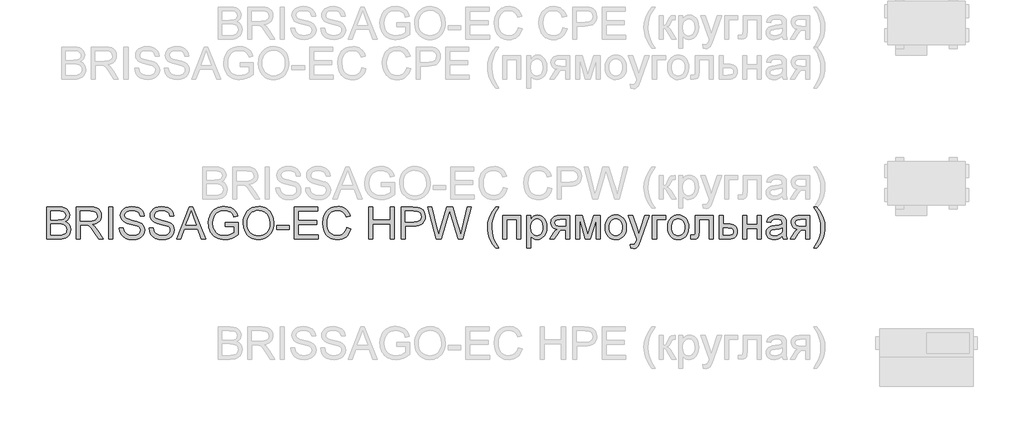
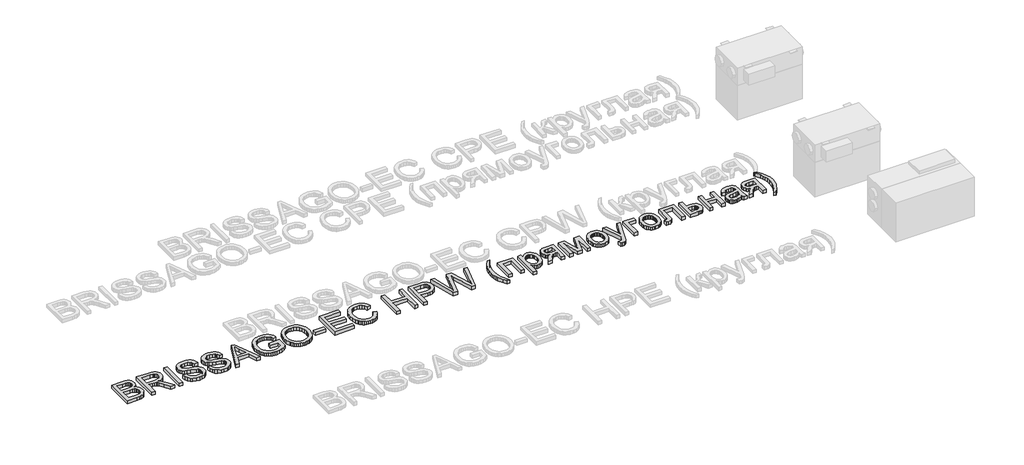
# One storey, part 9 of 28: 1 proxy.
"""IFC4 building model written with IfcOpenShell, lengths in millimetres."""

from ifc_helpers import new_model, si_unit, origin, origin_with_axes, place, context, project, spatial, polyline, outline, extrude, element, save

model = new_model("IFC4")

# Units and contexts
model_context = context("Model", 3, world=origin())
ifc_project = project(units=[si_unit("LENGTHUNIT", "METRE", prefix="MILLI")], contexts=[model_context])

# Site, building, storey
site = spatial("IfcSite", under=ifc_project)
building = spatial("IfcBuilding", under=site)
storey = spatial("IfcBuildingStorey", under=building, Name="Уровень 1", Elevation=0.0)

# Proxy
placement = place(None, origin())
element("IfcBuildingElementProxy", 1, Name="400 мм Arial", ObjectType="400 мм Arial", at=placement, inside=storey, context=model_context, shape_type="SweptSolid", body=[
    extrude(outline(polyline([(-31666.584598, -4848.7092589), (-31666.584598, -4446.8840183), (-31513.2513824, -4446.8840183), (-31471.079843, -4449.839337), (-31438.1544044, -4458.705293), (-31412.9176996, -4473.7026157), (-31393.8123613, -4495.0520342), (-31381.78262, -4520.1661117), (-31377.7727063, -4546.4574116), (-31381.1449579, -4570.6517842), (-31391.2617128, -4593.3991542), (-31408.1965473, -4613.3015701), (-31432.0230378, -4628.9610804), (-31403.5612342, -4643.823513), (-31382.5306468, -4666.435993), (-31369.5444123, -4695.3024669), (-31365.2156675, -4728.9268812), (-31368.1709862, -4756.9472265), (-31377.0369423, -4782.9319581), (-31390.2684314, -4805.0294033), (-31406.3203491, -4821.3878893), (-31425.9775104, -4833.2336896), (-31450.0247301, -4841.7930773), (-31479.2468233, -4846.9802135), (-31514.4286048, -4848.7092589), (-31666.584598, -4848.7092589)]), holes=[polyline([(-31616.3564429, -4610.1255223), (-31524.6311988, -4610.1255223), (-31471.0675803, -4605.8090402), (-31452.3178612, -4598.3655611), (-31438.8411175, -4587.2187367), (-31430.7109254, -4572.5402451), (-31428.0008614, -4554.5017646), (-31430.5269844, -4536.9905816), (-31438.1053535, -4521.7357415), (-31450.3926121, -4509.8286276), (-31467.0454038, -4502.3606231), (-31492.6009397, -4498.4242858), (-31531.5964312, -4497.1121733), (-31616.3564429, -4497.1121733), (-31616.3564429, -4610.1255223)]), polyline([(-31616.3564429, -4798.4811038), (-31513.3494842, -4798.4811038), (-31476.0707754, -4796.5190665), (-31444.5310257, -4785.5807085), (-31432.9550056, -4776.1506667), (-31423.6353284, -4763.2625341), (-31417.491699, -4747.4926593), (-31415.4438226, -4729.4173906), (-31417.8473183, -4708.4235914), (-31425.0578054, -4690.3728481), (-31437.6516324, -4676.2584423), (-31456.2051477, -4667.0736551), (-31482.4841849, -4662.0336718), (-31518.2545775, -4660.3536773), (-31616.3564429, -4660.3536773), (-31616.3564429, -4798.4811038)])]), origin_with_axes(), (0.0, 0.0, 1.0), 50.0),
    extrude(outline(polyline([(-31296.1519543, -4848.7092589), (-31296.1519543, -4446.8840183), (-31123.0021619, -4446.8840183), (-31076.4650895, -4449.5940823), (-31042.6076832, -4457.7242744), (-31017.8614877, -4472.7338598), (-30998.6580475, -4496.0821037), (-30986.3340007, -4525.0344168), (-30982.2259851, -4556.8562094), (-30983.9274393, -4577.4943893), (-30989.031802, -4596.440312), (-30997.5390731, -4613.6939776), (-31009.4492527, -4629.255386), (-31024.9156249, -4642.6278965), (-31044.0914739, -4653.3148685), (-31066.9767997, -4661.3163019), (-31093.5716023, -4666.6321967), (-31065.0239595, -4688.1165052), (-31024.3116853, -4739.8161883), (-30957.3081113, -4848.7092589), (-31015.6787212, -4848.7092589), (-31067.9670154, -4765.4207751), (-31105.7362336, -4710.2875268), (-31119.7770631, -4694.2110836), (-31132.2727882, -4684.2414815), (-31156.1605924, -4674.6765497), (-31185.2968464, -4672.9107161), (-31245.9237992, -4672.9107161), (-31245.9237992, -4848.7092589), (-31296.1519543, -4848.7092589)]), holes=[polyline([(-31245.9237992, -4622.682561), (-31133.4990615, -4622.682561), (-31101.2112851, -4620.9044647), (-31076.1585212, -4615.5701758), (-31057.2984376, -4606.324075), (-31043.5887019, -4592.810543), (-31035.2377806, -4576.4643197), (-31032.4541402, -4558.7201448), (-31037.7639036, -4534.2192039), (-31053.693194, -4514.4762035), (-31065.8547596, -4506.8794403), (-31081.1004026, -4501.4531809), (-31120.8439209, -4497.1121733), (-31245.9237992, -4497.1121733), (-31245.9237992, -4622.682561)])]), origin_with_axes(), (0.0, 0.0, 1.0), 50.0),
    extrude(outline(polyline([(-30888.0481943, -4848.7092589), (-30888.0481943, -4446.8840183), (-30837.8200392, -4446.8840183), (-30837.8200392, -4848.7092589), (-30888.0481943, -4848.7092589)])), origin_with_axes(), (0.0, 0.0, 1.0), 50.0),
    extrude(outline(polyline([(-30756.1992872, -4710.5818324), (-30705.9711322, -4710.5818324), (-30700.2076476, -4738.4550249), (-30689.7843244, -4760.8590384), (-30673.5239402, -4778.6400015), (-30650.2492726, -4792.6440428), (-30621.7997317, -4801.7307281), (-30590.0147273, -4804.7596232), (-30562.0311702, -4802.4664921), (-30537.5302293, -4795.5870988), (-30517.6768643, -4784.6977917), (-30503.6360348, -4770.3749194), (-30495.2851135, -4753.9305942), (-30492.5014731, -4736.6769286), (-30494.5861377, -4719.8647214), (-30500.8401317, -4705.3333826), (-30513.5443232, -4692.9357594), (-30534.9795808, -4682.5246989), (-30608.1145214, -4663.3457842), (-30656.1231218, -4650.6538554), (-30686.8412684, -4638.5750632), (-30711.8449814, -4621.6770169), (-30729.5646308, -4601.1982525), (-30740.1228441, -4577.5802284), (-30743.6422485, -4551.264403), (-30739.2889782, -4521.8461061), (-30726.2291674, -4494.414372), (-30704.8061725, -4471.1642299), (-30675.3633502, -4454.2907091), (-30640.0221532, -4444.0268014), (-30600.9040343, -4440.6054989), (-30558.5240285, -4444.186217), (-30521.4415234, -4454.9283712), (-30490.9808942, -4472.6112325), (-30468.4665161, -4497.0140715), (-30454.2172201, -4526.6163093), (-30448.5518374, -4559.8973672), (-30498.7799925, -4559.8973672), (-30508.0015678, -4529.9272473), (-30516.3647519, -4518.0691843), (-30527.2295334, -4508.295786), (-30557.2732297, -4495.199187), (-30598.941997, -4490.8336539), (-30641.591783, -4495.150136), (-30657.8950868, -4500.5457386), (-30670.8506644, -4508.0995823), (-30687.7732361, -4527.1558696), (-30693.4140934, -4549.792875), (-30689.4164424, -4569.0944171), (-30677.4234893, -4584.6190373), (-30649.0720502, -4598.5004512), (-30595.4103299, -4612.6761708), (-30540.0318269, -4626.1406518), (-30506.5300398, -4637.8883502), (-30477.8965579, -4656.1107716), (-30457.9205656, -4678.6006243), (-30446.1851299, -4705.1126534), (-30442.273318, -4735.4016043), (-30446.7737411, -4766.3650056), (-30460.2750103, -4795.4889969), (-30482.2253027, -4820.5540235), (-30512.0727952, -4839.3405307), (-30547.9658152, -4851.0759664), (-30588.05269, -4854.9877782), (-30637.2630382, -4850.769398), (-30677.7668459, -4838.1142574), (-30710.0300968, -4816.9733054), (-30734.518775, -4787.2974911), (-30750.2395989, -4751.1469537), (-30756.1992872, -4710.5818324)])), origin_with_axes(), (0.0, 0.0, 1.0), 50.0),
    extrude(outline(polyline([(-30385.7666436, -4710.5818324), (-30335.5384885, -4710.5818324), (-30329.7750039, -4738.4550249), (-30319.3516807, -4760.8590384), (-30303.0912965, -4778.6400015), (-30279.816629, -4792.6440428), (-30251.367088, -4801.7307281), (-30219.5820836, -4804.7596232), (-30191.5985265, -4802.4664921), (-30167.0975856, -4795.5870988), (-30147.2442206, -4784.6977917), (-30133.2033911, -4770.3749194), (-30124.8524699, -4753.9305942), (-30122.0688294, -4736.6769286), (-30124.1534941, -4719.8647214), (-30130.407488, -4705.3333826), (-30143.1116795, -4692.9357594), (-30164.5469371, -4682.5246989), (-30237.6818778, -4663.3457842), (-30285.6904781, -4650.6538554), (-30316.4086247, -4638.5750632), (-30341.4123377, -4621.6770169), (-30359.1319871, -4601.1982525), (-30369.6902004, -4577.5802284), (-30373.2096048, -4551.264403), (-30368.8563345, -4521.8461061), (-30355.7965237, -4494.414372), (-30334.3735288, -4471.1642299), (-30304.9307065, -4454.2907091), (-30269.5895095, -4444.0268014), (-30230.4713907, -4440.6054989), (-30188.0913848, -4444.186217), (-30151.0088797, -4454.9283712), (-30120.5482505, -4472.6112325), (-30098.0338724, -4497.0140715), (-30083.7845765, -4526.6163093), (-30078.1191937, -4559.8973672), (-30128.3473488, -4559.8973672), (-30137.5689242, -4529.9272473), (-30145.9321082, -4518.0691843), (-30156.7968898, -4508.295786), (-30186.840586, -4495.199187), (-30228.5093534, -4490.8336539), (-30271.1591393, -4495.150136), (-30287.4624431, -4500.5457386), (-30300.4180207, -4508.0995823), (-30317.3405925, -4527.1558696), (-30322.9814497, -4549.792875), (-30318.9837987, -4569.0944171), (-30306.9908457, -4584.6190373), (-30278.6394066, -4598.5004512), (-30224.9776862, -4612.6761708), (-30169.5991832, -4626.1406518), (-30136.0973962, -4637.8883502), (-30107.4639142, -4656.1107716), (-30087.4879219, -4678.6006243), (-30075.7524862, -4705.1126534), (-30071.8406743, -4735.4016043), (-30076.3410974, -4766.3650056), (-30089.8423666, -4795.4889969), (-30111.792659, -4820.5540235), (-30141.6401516, -4839.3405307), (-30177.5331716, -4851.0759664), (-30217.6200463, -4854.9877782), (-30266.8303945, -4850.769398), (-30307.3342022, -4838.1142574), (-30339.5974532, -4816.9733054), (-30364.0861313, -4787.2974911), (-30379.8069552, -4751.1469537), (-30385.7666436, -4710.5818324)])), origin_with_axes(), (0.0, 0.0, 1.0), 50.0),
    extrude(outline(polyline([(-30043.2930315, -4848.7092589), (-29882.8964816, -4446.8840183), (-29840.1240683, -4446.8840183), (-29679.7275184, -4848.7092589), (-29732.8006276, -4848.7092589), (-29778.8104025, -4723.1388712), (-29944.3082494, -4723.1388712), (-29990.2199224, -4848.7092589), (-30043.2930315, -4848.7092589)]), holes=[polyline([(-29925.8650987, -4672.9107161), (-29797.1554513, -4672.9107161), (-29833.3550396, -4574.1221377), (-29861.510275, -4497.1121733), (-29886.5262506, -4565.4891735), (-29925.8650987, -4672.9107161)])]), origin_with_axes(), (0.0, 0.0, 1.0), 50.0),
    extrude(outline(polyline([(-29437.7102165, -4691.7462742), (-29437.7102165, -4641.5181192), (-29274.4687125, -4641.5181192), (-29274.4687125, -4791.7120751), (-29314.1386543, -4819.3032247), (-29355.0593949, -4839.0952761), (-29397.1328325, -4851.0146527), (-29440.260865, -4854.9877782), (-29469.1120105, -4853.4089513), (-29496.608124, -4848.6724707), (-29522.7492054, -4840.7783362), (-29547.5352548, -4829.7265479), (-29570.1661289, -4815.6826527), (-29589.8416843, -4798.8121976), (-29606.5619209, -4779.1151824), (-29620.3268389, -4756.5916073), (-29631.0781902, -4731.9619077), (-29638.7577269, -4705.9465193), (-29643.3654489, -4678.545442), (-29644.9013562, -4649.7586759), (-29638.7822524, -4593.1661623), (-29631.1333725, -4566.3506305), (-29620.4249408, -4540.5222488), (-29606.8470295, -4516.8153199), (-29590.589711, -4496.3641466), (-29571.6529853, -4479.168729), (-29550.0368524, -4465.2290671), (-29526.2103618, -4454.456256), (-29500.6425632, -4446.7613909), (-29473.3334564, -4442.1444719), (-29444.2830415, -4440.6054989), (-29402.9085798, -4444.1739542), (-29365.7034473, -4454.8793203), (-29334.3721641, -4471.9490449), (-29310.6192499, -4494.6105758), (-29293.0467533, -4523.9552962), (-29280.2567226, -4561.0745896), (-29326.5608031, -4574.1221377), (-29336.8982871, -4547.6468967), (-29349.4675886, -4527.6709044), (-29366.0958548, -4512.6122681), (-29388.6102329, -4500.8890952), (-29415.4533558, -4493.3475143), (-29445.0678564, -4490.8336539), (-29479.7346031, -4493.543718), (-29509.3736292, -4501.6739101), (-29533.8745701, -4514.2064234), (-29553.1270611, -4530.123451), (-29567.9036546, -4548.6033899), (-29578.9769027, -4568.8246369), (-29590.7491265, -4606.7410079), (-29594.6732011, -4647.6985367), (-29589.9520489, -4695.7316625), (-29575.7885921, -4735.2544515), (-29552.6120264, -4765.9848609), (-29520.8515474, -4787.6408477), (-29483.6832032, -4800.4799293), (-29444.2830415, -4804.7596232), (-29409.4936675, -4801.5345243), (-29375.5626848, -4791.8592279), (-29346.095337, -4778.5296369), (-29324.6968676, -4764.3416546), (-29324.6968676, -4691.7462742), (-29437.7102165, -4691.7462742)])), origin_with_axes(), (0.0, 0.0, 1.0), 50.0),
    extrude(outline(polyline([(-29211.6835187, -4653.0941393), (-29208.3357925, -4605.9623243), (-29198.2926141, -4564.2383747), (-29181.5539833, -4527.9222904), (-29158.1199002, -4497.0140715), (-29129.3944477, -4472.335321), (-29096.7817089, -4454.707642), (-29060.2816836, -4444.1310347), (-29019.8943719, -4440.6054989), (-28992.8611766, -4442.2609679), (-28967.1891447, -4447.2273748), (-28942.8782762, -4455.5047197), (-28919.928571, -4467.0930025), (-28898.9838228, -4481.6427354), (-28880.6878249, -4498.8044305), (-28865.0405774, -4518.5780878), (-28852.0420802, -4540.9637072), (-28841.8272235, -4565.4523853), (-28834.5308972, -4591.5352188), (-28828.6938362, -4648.4833516), (-28830.2297436, -4678.1407718), (-28834.8374656, -4706.1917739), (-28842.5170022, -4732.636358), (-28853.2683535, -4757.4745241), (-28866.8370678, -4780.0502158), (-28882.9686933, -4799.7073771), (-28901.66323, -4816.4460079), (-28922.9206779, -4830.2661082), (-28945.9041056, -4841.0818388), (-28969.7765814, -4848.8073607), (-28994.5381054, -4853.4426739), (-29020.1886775, -4854.9877782), (-29047.693988, -4853.2801926), (-29073.703245, -4848.1574359), (-29098.2164486, -4839.6195079), (-29121.2335988, -4827.6664087), (-29142.1538216, -4812.7610566), (-29160.3762431, -4795.3663696), (-29175.9008633, -4775.4823477), (-29188.7276822, -4753.108991), (-29205.9445596, -4704.487254), (-29211.6835187, -4653.0941393)]), holes=[polyline([(-29161.4553636, -4653.5846486), (-29158.944569, -4686.8841005), (-29151.4121851, -4716.4434189), (-29138.8582121, -4742.2626036), (-29121.2826497, -4764.3416546), (-29099.9179029, -4782.0245159), (-29075.9963761, -4794.655131), (-29049.5180695, -4802.2335001), (-29020.4829831, -4804.7596232), (-28990.9512559, -4802.2089747), (-28964.1602496, -4794.5570292), (-28940.1099642, -4781.8037867), (-28918.8003996, -4763.9492472), (-28901.353596, -4741.4042122), (-28888.8915934, -4714.5794834), (-28881.4143918, -4683.4750607), (-28878.9219913, -4648.0909442), (-28883.1894225, -4603.6262737), (-28895.9917159, -4565.1948679), (-28916.9977778, -4533.7654828), (-28945.8765144, -4510.3068742), (-28980.7149394, -4495.701959), (-29019.6000663, -4490.8336539), (-29047.6265429, -4493.1789017), (-29073.6296686, -4500.2146448), (-29097.6094434, -4511.9408834), (-29119.5658671, -4528.3576175), (-29137.8925218, -4550.2557932), (-29150.9829895, -4578.426357), (-29158.8372701, -4612.8693088), (-29161.4553636, -4653.5846486)])]), origin_with_axes(), (0.0, 0.0, 1.0), 50.0),
    extrude(outline(polyline([(-28791.0227199, -4729.4173906), (-28791.0227199, -4679.1892355), (-28634.0597353, -4679.1892355), (-28634.0597353, -4729.4173906), (-28791.0227199, -4729.4173906)])), origin_with_axes(), (0.0, 0.0, 1.0), 50.0),
    extrude(outline(polyline([(-28571.2745415, -4848.7092589), (-28571.2745415, -4446.8840183), (-28282.4626498, -4446.8840183), (-28282.4626498, -4497.1121733), (-28521.0463864, -4497.1121733), (-28521.0463864, -4616.4040416), (-28295.0196886, -4616.4040416), (-28295.0196886, -4666.6321967), (-28521.0463864, -4666.6321967), (-28521.0463864, -4798.4811038), (-28276.1841304, -4798.4811038), (-28276.1841304, -4848.7092589), (-28571.2745415, -4848.7092589)])), origin_with_axes(), (0.0, 0.0, 1.0), 50.0),
    extrude(outline(polyline([(-27918.3085255, -4705.8729429), (-27868.0803704, -4718.8223891), (-27878.0193157, -4750.0586362), (-27891.2569361, -4777.3524145), (-27907.7932318, -4800.7037242), (-27927.6282027, -4820.1125651), (-27950.3142591, -4835.3704708), (-27975.4038112, -4846.268975), (-28002.8968589, -4852.8080774), (-28032.7934024, -4854.9877782), (-28063.4226442, -4853.3384406), (-28091.0536477, -4848.3904278), (-28115.686413, -4840.1437397), (-28137.32094, -4828.5983765), (-28156.2546, -4813.9260162), (-28172.7847643, -4796.2983373), (-28186.9114329, -4775.7153396), (-28198.6346058, -4752.1770233), (-28214.4167434, -4700.305662), (-28219.677456, -4644.7554807), (-28213.7300304, -4586.1641416), (-28206.2957484, -4559.8667103), (-28195.8877536, -4535.5681046), (-28182.739038, -4513.6699288), (-28167.0825934, -4494.5737876), (-28148.9184199, -4478.2796809), (-28128.2465174, -4464.7876087), (-28105.7689275, -4454.2079356), (-28082.1876916, -4446.6510263), (-28031.7142819, -4440.6054989), (-28002.9857638, -4442.5614048), (-27976.6423472, -4448.4291226), (-27952.6840323, -4458.2086523), (-27931.1108189, -4471.8999939), (-27912.2783265, -4489.1413968), (-27896.5421741, -4509.5711102), (-27883.9023619, -4533.1891343), (-27874.3588898, -4559.995469), (-27924.5870449, -4571.9638966), (-27942.000126, -4535.3351126), (-27965.7898284, -4510.2087724), (-27996.2504576, -4495.6774336), (-28033.6763192, -4490.8336539), (-28076.8166145, -4496.2047311), (-28095.4988885, -4502.9185775), (-28112.2559134, -4512.3179625), (-28139.1480872, -4537.4810909), (-28156.6470075, -4570.0018593), (-28166.2487275, -4606.7655334), (-28169.4493009, -4644.6573789), (-28165.6601163, -4691.0595612), (-28154.2925627, -4731.1832241), (-28134.9174443, -4763.495526), (-28107.1055654, -4786.4636253), (-28073.7631939, -4800.1856237), (-28037.7965975, -4804.7596232), (-28015.9597355, -4803.2022561), (-27995.8703128, -4798.5301547), (-27977.5283297, -4790.7433192), (-27960.933786, -4779.8417494), (-27946.4790893, -4765.8744963), (-27934.556647, -4748.8906108), (-27925.166459, -4728.890093), (-27918.3085255, -4705.8729429)])), origin_with_axes(), (0.0, 0.0, 1.0), 50.0),
    extrude(outline(polyline([(-27642.0536726, -4848.7092589), (-27642.0536726, -4446.8840183), (-27591.8255175, -4446.8840183), (-27591.8255175, -4610.1255223), (-27378.3558585, -4610.1255223), (-27378.3558585, -4446.8840183), (-27328.1277034, -4446.8840183), (-27328.1277034, -4848.7092589), (-27378.3558585, -4848.7092589), (-27378.3558585, -4660.3536773), (-27591.8255175, -4660.3536773), (-27591.8255175, -4848.7092589), (-27642.0536726, -4848.7092589)])), origin_with_axes(), (0.0, 0.0, 1.0), 50.0),
    extrude(outline(polyline([(-27240.228432, -4848.7092589), (-27240.228432, -4446.8840183), (-27091.3098004, -4446.8840183), (-27031.2714587, -4450.709991), (-27004.5019122, -4457.8591644), (-26982.4657807, -4469.4964982), (-26964.7216058, -4486.1492899), (-26950.8279291, -4508.3448369), (-26941.8516085, -4534.5257722), (-26938.8595016, -4563.1347287), (-26940.8797868, -4587.8012165), (-26946.9406427, -4610.4934042), (-26957.0420692, -4631.2112919), (-26971.1840662, -4649.9548796), (-26990.5990385, -4665.4917625), (-27016.5193907, -4676.589536), (-27048.9451229, -4683.2482002), (-27087.8762351, -4685.4677549), (-27190.0002769, -4685.4677549), (-27190.0002769, -4848.7092589), (-27240.228432, -4848.7092589)]), holes=[polyline([(-27190.0002769, -4635.2395998), (-27084.9331791, -4635.2395998), (-27040.3949322, -4630.6288121), (-27023.7911915, -4624.8653275), (-27010.9643726, -4616.7964491), (-27001.3933094, -4606.6367747), (-26994.5568356, -4594.6009021), (-26989.0876566, -4564.9005623), (-26992.3127555, -4542.3371333), (-27001.9880519, -4523.3053714), (-27016.9117982, -4508.982499), (-27035.8822464, -4500.5457386), (-27086.1104015, -4497.1121733), (-27190.0002769, -4497.1121733), (-27190.0002769, -4635.2395998)])]), origin_with_axes(), (0.0, 0.0, 1.0), 50.0),
    extrude(outline(polyline([(-26797.887121, -4848.7092589), (-26907.4669046, -4446.8840183), (-26855.6691197, -4446.8840183), (-26792.0991109, -4710.9742399), (-26772.4787379, -4792.49689), (-26751.4849387, -4720.3920189), (-26671.826224, -4446.8840183), (-26597.1707044, -4446.8840183), (-26539.2906039, -4645.1478882), (-26514.4953574, -4718.7242872), (-26496.223885, -4792.49689), (-26477.1921231, -4713.3286846), (-26413.0335031, -4446.8840183), (-26361.2357182, -4446.8840183), (-26470.9136037, -4848.7092589), (-26524.5753241, -4848.7092589), (-26620.9113559, -4538.7073643), (-26634.3513114, -4495.4444416), (-26649.4589987, -4547.5365321), (-26737.2601682, -4848.7092589), (-26797.887121, -4848.7092589)])), origin_with_axes(), (0.0, 0.0, 1.0), 50.0),
    extrude(outline(polyline([(-26059.8667877, -4961.7226078), (-26098.7887028, -4907.1043942), (-26131.1868439, -4843.9022675), (-26143.933955, -4809.8486574), (-26153.0390344, -4775.1819108), (-26158.502082, -4739.9020274), (-26160.3230979, -4704.0090074), (-26154.8784444, -4641.5916956), (-26138.5444838, -4581.872185), (-26106.1218173, -4514.2309488), (-26059.8667877, -4446.8840183), (-26022.1956714, -4446.8840183), (-26069.186465, -4526.4446311), (-26085.2261199, -4564.2138493), (-26097.4398022, -4603.5526973), (-26106.9311577, -4653.8053778), (-26110.0949428, -4704.303313), (-26104.6012384, -4768.6949249), (-26088.120125, -4833.0620113), (-26060.6516027, -4897.4045723), (-26022.1956714, -4961.7226078), (-26059.8667877, -4961.7226078)])), origin_with_axes(), (0.0, 0.0, 1.0), 50.0),
    extrude(outline(polyline([(-25971.9675164, -4553.6188478), (-25745.9408185, -4553.6188478), (-25745.9408185, -4848.7092589), (-25796.1689736, -4848.7092589), (-25796.1689736, -4603.8470029), (-25921.7393613, -4603.8470029), (-25921.7393613, -4848.7092589), (-25971.9675164, -4848.7092589), (-25971.9675164, -4553.6188478)])), origin_with_axes(), (0.0, 0.0, 1.0), 50.0),
    extrude(outline(polyline([(-25670.5985859, -4961.7226078), (-25670.5985859, -4553.6188478), (-25620.3704308, -4553.6188478), (-25620.3704308, -4602.8659842), (-25603.9874193, -4578.5735098), (-25585.6423705, -4561.2217424), (-25564.2561638, -4550.8106819), (-25538.7496788, -4547.3403284), (-25504.781908, -4552.1963707), (-25475.0815682, -4566.7644978), (-25450.8994584, -4590.1617926), (-25433.4863773, -4621.5053386), (-25422.9649522, -4658.5142674), (-25419.4578105, -4698.9077104), (-25423.4186734, -4741.8640647), (-25435.3012618, -4780.2832078), (-25454.7254311, -4812.2153649), (-25481.3110367, -4835.7107617), (-25512.2744379, -4850.1685241), (-25544.8319945, -4854.9877782), (-25567.9227211, -4851.7626794), (-25588.5363755, -4842.0873829), (-25606.1824486, -4827.4824677), (-25620.3704308, -4809.4685127), (-25620.3704308, -4961.7226078), (-25670.5985859, -4961.7226078)]), holes=[polyline([(-25620.3704308, -4703.5184981), (-25614.93804, -4748.5472543), (-25608.1475516, -4765.9848609), (-25598.6408677, -4780.0379531), (-25574.5936479, -4798.5792056), (-25560.8317956, -4803.2145188), (-25545.911115, -4804.7596232), (-25530.7758366, -4803.1593365), (-25516.7625983, -4798.3584765), (-25503.8714, -4790.3570431), (-25492.1022419, -4779.1550363), (-25482.295121, -4764.5930407), (-25475.2900347, -4746.5116406), (-25471.0869829, -4724.9108361), (-25469.6859656, -4699.7906272), (-25475.1551446, -4655.0071257), (-25481.9916184, -4637.434629), (-25491.5626816, -4623.0749685), (-25515.5731132, -4603.9451047), (-25529.1786156, -4599.1626388), (-25543.8509758, -4597.5684835), (-25558.4773508, -4599.2638063), (-25572.2392031, -4604.3497749), (-25597.1693397, -4624.6936493), (-25607.3198171, -4639.7921395), (-25614.5701581, -4657.9624444), (-25618.9203626, -4679.2045639), (-25620.3704308, -4703.5184981)])]), origin_with_axes(), (0.0, 0.0, 1.0), 50.0),
    extrude(outline(polyline([(-25136.9244382, -4553.6188478), (-25136.9244382, -4848.7092589), (-25187.1525933, -4848.7092589), (-25187.1525933, -4735.6959099), (-25214.5230138, -4735.6959099), (-25236.3506788, -4737.2900653), (-25251.8017226, -4742.0725312), (-25266.6886807, -4755.9784706), (-25286.8240885, -4784.9430464), (-25326.8496496, -4848.7092589), (-25384.9259539, -4848.7092589), (-25334.5015951, -4768.0695255), (-25312.2324717, -4739.1294752), (-25291.7291818, -4726.2781309), (-25326.0648347, -4715.7567058), (-25339.4066884, -4706.945932), (-25350.1978936, -4695.7684507), (-25364.471715, -4669.1828452), (-25369.2296555, -4638.8693688), (-25367.6048433, -4620.7818374), (-25362.7304069, -4604.484665), (-25354.6063462, -4589.9778516), (-25343.2326611, -4577.2613973), (-25328.7810301, -4566.9177819), (-25311.4231313, -4559.5294852), (-25291.1589647, -4555.0965071), (-25267.9885304, -4553.6188478), (-25136.9244382, -4553.6188478)]), holes=[polyline([(-25187.1525933, -4603.8470029), (-25253.3713525, -4603.8470029), (-25287.5721153, -4606.7532706), (-25306.9840219, -4615.4720739), (-25315.9971308, -4628.0904264), (-25319.0015004, -4642.6953416), (-25314.5746537, -4661.837468), (-25301.2941137, -4675.1180081), (-25276.7563846, -4682.8803182), (-25238.5579708, -4685.4677549), (-25187.1525933, -4685.4677549), (-25187.1525933, -4603.8470029)])]), origin_with_axes(), (0.0, 0.0, 1.0), 50.0),
    extrude(outline(polyline([(-25061.5822056, -4553.6188478), (-24975.1544622, -4553.6188478), (-24908.5432956, -4789.8481396), (-24836.7327302, -4553.6188478), (-24753.9347558, -4553.6188478), (-24753.9347558, -4848.7092589), (-24804.1629109, -4848.7092589), (-24804.1629109, -4611.1065409), (-24876.3658838, -4848.7092589), (-24942.2903373, -4848.7092589), (-25011.3540506, -4599.7267245), (-25011.3540506, -4848.7092589), (-25061.5822056, -4848.7092589), (-25061.5822056, -4553.6188478)])), origin_with_axes(), (0.0, 0.0, 1.0), 50.0),
    extrude(outline(polyline([(-24691.149562, -4701.1640533), (-24688.4333666, -4662.9472454), (-24680.2847804, -4630.0156755), (-24666.7038034, -4602.3693435), (-24647.6904356, -4580.0082496), (-24628.5483091, -4565.7160341), (-24607.4196199, -4555.5073087), (-24584.3043678, -4549.3820735), (-24559.202553, -4547.3403284), (-24531.4918417, -4549.8265976), (-24506.4360122, -4557.285405), (-24484.0350644, -4569.7167508), (-24464.2889983, -4587.1206348), (-24448.1727012, -4608.908446), (-24436.6610604, -4634.4915731), (-24429.754076, -4663.8700161), (-24427.4517478, -4697.043775), (-24431.5229752, -4747.7869648), (-24443.7366575, -4786.4145743), (-24463.7371753, -4815.3423619), (-24491.1689094, -4836.9860859), (-24523.7509914, -4850.4873552), (-24559.202553, -4854.9877782), (-24587.3179345, -4852.5107061), (-24612.606756, -4845.0794898), (-24635.0690175, -4832.6941293), (-24654.704719, -4815.3546246), (-24670.6493378, -4793.3552813), (-24682.0383512, -4766.990405), (-24688.8717593, -4736.2599957), (-24691.149562, -4701.1640533)]), holes=[polyline([(-24640.9214069, -4701.0659515), (-24639.468273, -4725.4289366), (-24635.1088714, -4746.5239033), (-24627.843202, -4764.3508517), (-24617.6712648, -4778.9097816), (-24605.298167, -4790.2190873), (-24591.4290158, -4798.2971628), (-24576.0638111, -4803.1440081), (-24559.202553, -4804.7596232), (-24542.427134, -4803.134811), (-24527.123243, -4798.2603746), (-24513.29088, -4790.1363139), (-24500.930045, -4778.7626288), (-24490.7581078, -4764.0596118), (-24483.4924384, -4745.9475549), (-24479.1330368, -4724.4264582), (-24477.6799029, -4699.4963216), (-24479.1422338, -4675.9058887), (-24483.5292266, -4655.3627449), (-24490.8408813, -4637.8668904), (-24501.0771978, -4623.418325), (-24513.4840181, -4612.1090193), (-24527.307184, -4604.0309439), (-24542.5466957, -4599.1840986), (-24559.202553, -4597.5684835), (-24576.0638111, -4599.1779672), (-24591.4290158, -4604.0064184), (-24605.298167, -4612.053837), (-24617.6712648, -4623.3202231), (-24627.843202, -4637.8362335), (-24635.1088714, -4655.6325251), (-24639.468273, -4676.7090977), (-24640.9214069, -4701.0659515)])]), origin_with_axes(), (0.0, 0.0, 1.0), 50.0),
    extrude(outline(polyline([(-24370.9450734, -4961.7226078), (-24377.2235927, -4913.3583881), (-24351.7171077, -4917.7729721), (-24338.3016777, -4916.3872832), (-24327.8783545, -4912.2302167), (-24313.2611765, -4896.7791729), (-24299.5269154, -4859.7947696), (-24295.6028407, -4847.6301383), (-24402.3376703, -4553.6188478), (-24349.362663, -4553.6188478), (-24292.7578866, -4717.448963), (-24273.0394117, -4782.9810091), (-24253.3209368, -4725.1009085), (-24195.1465306, -4553.6188478), (-24142.5639308, -4553.6188478), (-24245.2765838, -4855.7725932), (-24271.9602912, -4921.3046392), (-24285.6209759, -4942.224862), (-24301.0965452, -4956.7194126), (-24319.073712, -4965.1806985), (-24340.2391895, -4968.0011272), (-24370.9450734, -4961.7226078)])), origin_with_axes(), (0.0, 0.0, 1.0), 50.0),
    extrude(outline(polyline([(-24100.9687398, -4553.6188478), (-23937.7272358, -4553.6188478), (-23937.7272358, -4603.8470029), (-24050.7405848, -4603.8470029), (-24050.7405848, -4848.7092589), (-24100.9687398, -4848.7092589), (-24100.9687398, -4553.6188478)])), origin_with_axes(), (0.0, 0.0, 1.0), 50.0),
    extrude(outline(polyline([(-23912.6131583, -4701.1640533), (-23909.8969629, -4662.9472454), (-23901.7483767, -4630.0156755), (-23888.1673997, -4602.3693435), (-23869.1540319, -4580.0082496), (-23850.0119055, -4565.7160341), (-23828.8832162, -4555.5073087), (-23805.7679642, -4549.3820735), (-23780.6661494, -4547.3403284), (-23752.9554381, -4549.8265976), (-23727.8996085, -4557.285405), (-23705.4986607, -4569.7167508), (-23685.7525946, -4587.1206348), (-23669.6362975, -4608.908446), (-23658.1246568, -4634.4915731), (-23651.2176723, -4663.8700161), (-23648.9153442, -4697.043775), (-23652.9865716, -4747.7869648), (-23665.2002538, -4786.4145743), (-23685.2007716, -4815.3423619), (-23712.6325057, -4836.9860859), (-23745.2145878, -4850.4873552), (-23780.6661494, -4854.9877782), (-23808.7815308, -4852.5107061), (-23834.0703523, -4845.0794898), (-23856.5326138, -4832.6941293), (-23876.1683153, -4815.3546246), (-23892.1129341, -4793.3552813), (-23903.5019476, -4766.990405), (-23910.3353556, -4736.2599957), (-23912.6131583, -4701.1640533)]), holes=[polyline([(-23862.3850032, -4701.0659515), (-23860.9318693, -4725.4289366), (-23856.5724677, -4746.5239033), (-23849.3067983, -4764.3508517), (-23839.1348611, -4778.9097816), (-23826.7617634, -4790.2190873), (-23812.8926121, -4798.2971628), (-23797.5274075, -4803.1440081), (-23780.6661494, -4804.7596232), (-23763.8907304, -4803.134811), (-23748.5868394, -4798.2603746), (-23734.7544764, -4790.1363139), (-23722.3936413, -4778.7626288), (-23712.2217042, -4764.0596118), (-23704.9560348, -4745.9475549), (-23700.5966331, -4724.4264582), (-23699.1434992, -4699.4963216), (-23700.6058302, -4675.9058887), (-23704.992823, -4655.3627449), (-23712.3044776, -4637.8668904), (-23722.5407941, -4623.418325), (-23734.9476144, -4612.1090193), (-23748.7707804, -4604.0309439), (-23764.010292, -4599.1840986), (-23780.6661494, -4597.5684835), (-23797.5274075, -4599.1779672), (-23812.8926121, -4604.0064184), (-23826.7617634, -4612.053837), (-23839.1348611, -4623.3202231), (-23849.3067983, -4637.8362335), (-23856.5724677, -4655.6325251), (-23860.9318693, -4676.7090977), (-23862.3850032, -4701.0659515)])]), origin_with_axes(), (0.0, 0.0, 1.0), 50.0),
    extrude(outline(polyline([(-23567.2945922, -4553.6188478), (-23341.2678943, -4553.6188478), (-23341.2678943, -4848.4149533), (-23391.4960494, -4848.4149533), (-23391.4960494, -4603.8470029), (-23517.0664371, -4603.8470029), (-23517.0664371, -4744.6231797), (-23520.4509514, -4809.5666146), (-23526.7907845, -4824.2696316), (-23539.0412549, -4836.9860859), (-23557.6315584, -4845.7784656), (-23582.9908906, -4848.7092589), (-23623.8012666, -4846.1586104), (-23623.8012666, -4798.4811038), (-23601.3359394, -4798.4811038), (-23578.6253576, -4795.390895), (-23569.5509351, -4785.5807085), (-23567.2945922, -4741.7782256), (-23567.2945922, -4553.6188478)])), origin_with_axes(), (0.0, 0.0, 1.0), 50.0),
    extrude(outline(polyline([(-23265.9256617, -4553.6188478), (-23215.6975066, -4553.6188478), (-23215.6975066, -4660.3536773), (-23157.8174061, -4660.3536773), (-23131.0969105, -4661.9263729), (-23107.6383019, -4666.6444594), (-23087.4415804, -4674.5079371), (-23070.5067459, -4685.5168058), (-23057.1158412, -4699.2909208), (-23047.5509094, -4715.4501375), (-23041.8119502, -4733.9944557), (-23039.8989639, -4754.9238756), (-23041.5268417, -4773.5969525), (-23046.4104752, -4790.8659465), (-23054.5498643, -4806.7308575), (-23065.9450091, -4821.1916856), (-23080.920872, -4833.2306239), (-23099.8024154, -4841.8298655), (-23122.5896393, -4846.9894105), (-23149.2825438, -4848.7092589), (-23265.9256617, -4848.7092589), (-23265.9256617, -4553.6188478)]), holes=[polyline([(-23215.6975066, -4798.4811038), (-23168.804815, -4798.4811038), (-23132.4212857, -4795.8446162), (-23108.2269131, -4787.9351533), (-23094.6520675, -4774.433884), (-23090.1271189, -4755.0219774), (-23093.4748451, -4738.6144404), (-23103.5180236, -4724.1198898), (-23112.2460239, -4718.1969897), (-23125.0391203, -4713.9663468), (-23162.8206012, -4710.5818324), (-23215.6975066, -4710.5818324), (-23215.6975066, -4798.4811038)])]), origin_with_axes(), (0.0, 0.0, 1.0), 50.0),
    extrude(outline(polyline([(-22977.11377, -4553.6188478), (-22926.885615, -4553.6188478), (-22926.885615, -4666.6321967), (-22795.0367079, -4666.6321967), (-22795.0367079, -4553.6188478), (-22744.8085528, -4553.6188478), (-22744.8085528, -4848.7092589), (-22795.0367079, -4848.7092589), (-22795.0367079, -4716.8603518), (-22926.885615, -4716.8603518), (-22926.885615, -4848.7092589), (-22977.11377, -4848.7092589), (-22977.11377, -4553.6188478)])), origin_with_axes(), (0.0, 0.0, 1.0), 50.0),
    extrude(outline(polyline([(-22481.1107387, -4811.0381426), (-22505.1089075, -4831.6150088), (-22529.8183148, -4845.0794898), (-22555.8030464, -4852.5107061), (-22583.627188, -4854.9877782), (-22605.9913476, -4853.4978562), (-22625.6025236, -4849.0280899), (-22642.4607161, -4841.5784795), (-22656.5659249, -4831.149025), (-22667.7035523, -4818.4019138), (-22675.6590005, -4803.9993337), (-22680.4322693, -4787.9412846), (-22682.023359, -4770.2277666), (-22679.6198633, -4749.4056456), (-22672.4093762, -4730.4965111), (-22661.2870772, -4714.3097033), (-22647.1481458, -4701.6545627), (-22630.5321424, -4692.0896308), (-22611.9786271, -4685.1734493), (-22568.5195007, -4677.6196056), (-22517.1631742, -4669.6733545), (-22481.4050443, -4660.3536773), (-22481.1107387, -4649.1700647), (-22484.5688294, -4626.7537884), (-22494.9431017, -4612.0875596), (-22518.1441928, -4601.1982525), (-22550.4687575, -4597.5684835), (-22580.3898264, -4599.9842419), (-22601.2855238, -4607.2315172), (-22615.5348197, -4620.6346846), (-22625.5166845, -4641.5181192), (-22675.7448396, -4635.2395998), (-22667.0260363, -4607.7710775), (-22654.0152764, -4586.1886671), (-22635.4985493, -4569.6830282), (-22610.2618444, -4557.4448205), (-22579.396545, -4549.8664514), (-22543.9940344, -4547.3403284), (-22510.0385262, -4549.5721458), (-22483.1218269, -4556.2675982), (-22462.8270035, -4566.3353021), (-22448.7371231, -4578.6838744), (-22439.3929204, -4593.9509772), (-22433.3351302, -4612.7742726), (-22430.8825836, -4656.7239083), (-22430.8825836, -4719.2147966), (-22428.3319351, -4806.4764058), (-22418.3255448, -4848.7092589), (-22468.5536999, -4848.7092589), (-22476.5980529, -4831.2471268), (-22481.1107387, -4811.0381426)]), holes=[polyline([(-22481.1107387, -4710.5818324), (-22514.8577804, -4718.9450164), (-22562.1428795, -4725.9838253), (-22605.3567512, -4734.1262801), (-22616.6016775, -4739.693561), (-22624.9280733, -4747.3700319), (-22630.0784212, -4756.5670818), (-22631.7952039, -4766.6960994), (-22628.0550703, -4781.6321084), (-22616.8346694, -4793.8703161), (-22598.379256, -4802.0372964), (-22572.9340847, -4804.7596232), (-22545.9560717, -4801.7552535), (-22522.1173184, -4792.7421447), (-22502.7912509, -4779.4616046), (-22489.3512954, -4763.6549416), (-22483.391607, -4747.3700319), (-22481.4050443, -4724.8066029), (-22481.1107387, -4710.5818324)])]), origin_with_axes(), (0.0, 0.0, 1.0), 50.0),
    extrude(outline(polyline([(-22135.7921725, -4553.6188478), (-22135.7921725, -4848.7092589), (-22186.0203276, -4848.7092589), (-22186.0203276, -4735.6959099), (-22213.390748, -4735.6959099), (-22235.2184131, -4737.2900653), (-22250.6694569, -4742.0725312), (-22265.556415, -4755.9784706), (-22285.6918228, -4784.9430464), (-22325.7173839, -4848.7092589), (-22383.7936882, -4848.7092589), (-22333.3693294, -4768.0695255), (-22311.100206, -4739.1294752), (-22290.5969161, -4726.2781309), (-22324.932569, -4715.7567058), (-22338.2744227, -4706.945932), (-22349.0656279, -4695.7684507), (-22363.3394493, -4669.1828452), (-22368.0973897, -4638.8693688), (-22366.4725776, -4620.7818374), (-22361.5981412, -4604.484665), (-22353.4740804, -4589.9778516), (-22342.1003954, -4577.2613973), (-22327.6487644, -4566.9177819), (-22310.2908656, -4559.5294852), (-22290.026699, -4555.0965071), (-22266.8562647, -4553.6188478), (-22135.7921725, -4553.6188478)]), holes=[polyline([(-22186.0203276, -4603.8470029), (-22252.2390867, -4603.8470029), (-22286.4398496, -4606.7532706), (-22305.8517562, -4615.4720739), (-22314.864865, -4628.0904264), (-22317.8692347, -4642.6953416), (-22313.442388, -4661.837468), (-22300.161848, -4675.1180081), (-22275.6241189, -4682.8803182), (-22237.4257051, -4685.4677549), (-22186.0203276, -4685.4677549), (-22186.0203276, -4603.8470029)])]), origin_with_axes(), (0.0, 0.0, 1.0), 50.0),
    extrude(outline(polyline([(-22047.8929011, -4961.7226078), (-22085.5640175, -4961.7226078), (-22047.1080862, -4897.4045723), (-22019.6395639, -4833.0620113), (-22003.1584505, -4768.6949249), (-21997.6647461, -4704.303313), (-22000.8285312, -4654.1732598), (-22010.3198867, -4604.4356141), (-22022.3128397, -4565.0231896), (-22038.2789183, -4527.229446), (-22085.5640175, -4446.8840183), (-22047.8929011, -4446.8840183), (-22001.6378716, -4514.2309488), (-21969.2152051, -4581.872185), (-21952.8812445, -4641.5916956), (-21947.436591, -4704.0090074), (-21949.2668039, -4739.9020274), (-21954.7574427, -4775.1819108), (-21963.9085073, -4809.8486574), (-21976.7199978, -4843.9022675), (-22009.1549271, -4907.1043942), (-22047.8929011, -4961.7226078)])), origin_with_axes(), (0.0, 0.0, 1.0), 50.0),
])

save(model, "model.ifc")
